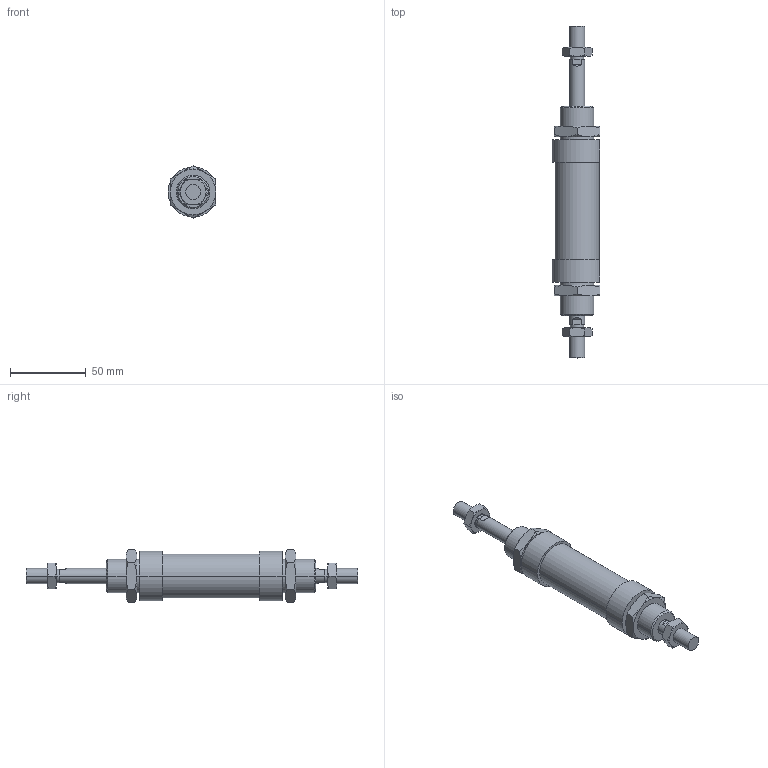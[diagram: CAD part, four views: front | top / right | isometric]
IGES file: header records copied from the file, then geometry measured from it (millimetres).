
Global section: file name: No Iges File Name specified; native system: AutoDesk Inventor R6.0; preprocessor: AutoDesk Inventor Iges Exporter R6.0; author: No Author specified; organization: No Organization specified; date: 20030403.072432; units: millimetre
Bounding box: 31.5 x 219 x 34.64 mm (x, y, z)
Volume: 97490.7 mm3; surface area: 31298.2 mm2
Topology: 6 solids, 6 shells, 184 faces, 396 edges, 232 vertices
Faces by surface type: cone 68, plane 60, bspline 30, cylinder 20, revolution 6
